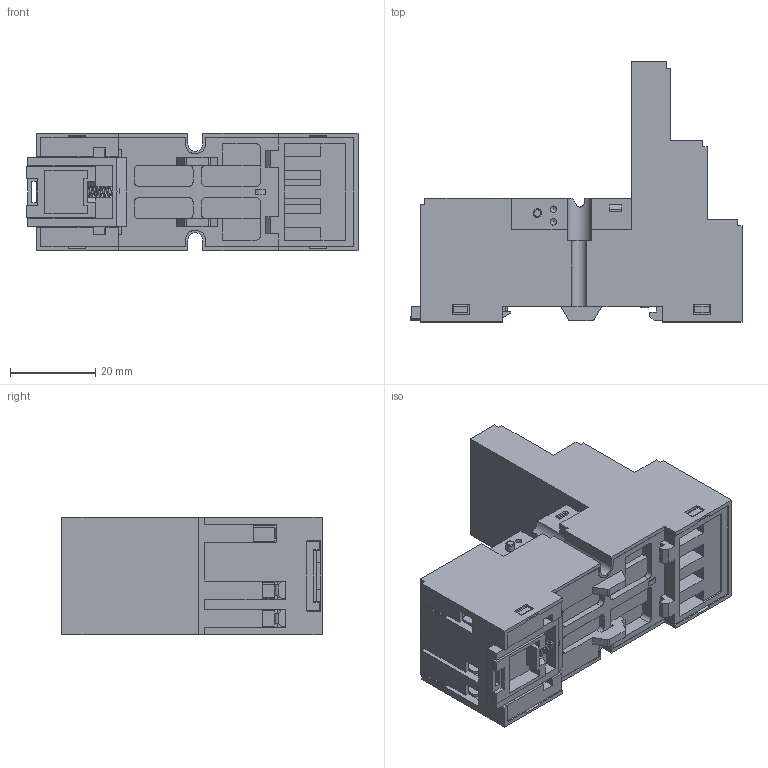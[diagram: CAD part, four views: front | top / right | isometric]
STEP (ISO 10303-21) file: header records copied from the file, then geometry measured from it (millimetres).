
FILE_DESCRIPTION(/* description */ (''),/* implementation_level */ '2;1');
FILE_NAME(/* name */ '18FF-3Z-C5_stp.stp',/* time_stamp */ '2018-12-28T12:53:38+08:00',/* author */ (''),/* organization */ (''),/* preprocessor_version */ 'ST-DEVELOPER v15',/* originating_system */ 'SIEMENS PLM Software NX 8.5',/* authorisation */ '');
FILE_SCHEMA (('CONFIG_CONTROL_DESIGN'));
Length unit declared in the file: millimetre
Products named in the file (7): SLIDE block3111; Spring3112; Base4-201504083113; Screw3114; Nut3115; Cover3128; 18FF-3Z-C5_stp
Assembly tree (31 placements, depth 2):
  18FF-3Z-C5_stp
    Cover3128
    Nut3115  x12
    Screw3114  x15
    Base4-201504083113
    Spring3112
    SLIDE block3111
Bounding box: 78 x 61.1 x 27.6 mm (x, y, z)
Volume: 49816.9 mm3; surface area: 54859.9 mm2
Topology: 36 solids, 41 shells, 3124 faces, 8204 edges, 5248 vertices
Faces by surface type: plane 2434, cylinder 550, torus 45, sphere 34, cone 34, bspline 18, extrusion 9
Full cylindrical faces by diameter (mm): 0.4 x4, 1.5 x5, 2 x2, 2.2 x15, 2.4 x2, 2.459 x12, 2.6 x15, 2.9 x15, 3 x12, 3.1 x27, 3.9 x1, 4.5 x1, 4.8 x15, 5.5 x12
Entity records: 53312 total; most frequent: CARTESIAN_POINT 9502, ORIENTED_EDGE 8966, DIRECTION 8247, EDGE_CURVE 4483, VECTOR 4031, LINE 4022, VERTEX_POINT 2990, AXIS2_PLACEMENT_3D 2108
